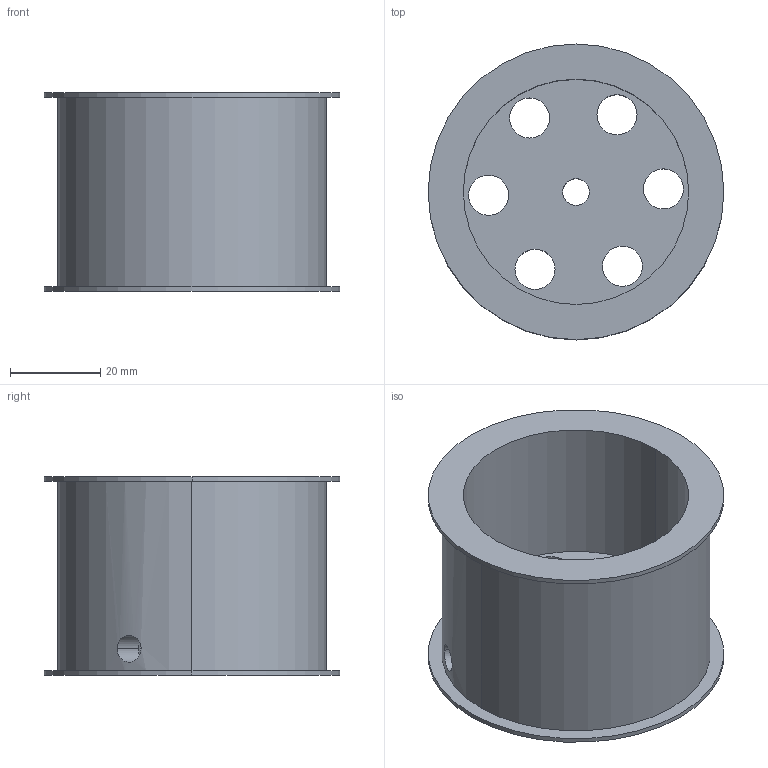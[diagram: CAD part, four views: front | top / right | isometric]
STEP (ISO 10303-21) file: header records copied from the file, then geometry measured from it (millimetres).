
FILE_DESCRIPTION (( 'STEP AP203' ), '1' );
FILE_NAME ('jsumo wheel rim.STEP', '2025-10-13T11:03:18', ( '' ), ( '' ), 'SwSTEP 2.0', 'SolidWorks 2023', '' );
FILE_SCHEMA (( 'CONFIG_CONTROL_DESIGN' ));
Length unit declared in the file: millimetre
Products named in the file (1): jsumo wheel rim
Bounding box: 65.6 x 65.6 x 44 mm (x, y, z)
Volume: 54112.5 mm3; surface area: 23070.1 mm2
Topology: 1 solids, 1 shells, 33 faces, 84 edges, 56 vertices
Faces by surface type: cylinder 26, plane 7
Entity records: 1251 total; most frequent: CARTESIAN_POINT 300, DIRECTION 196, ORIENTED_EDGE 168, AXIS2_PLACEMENT_3D 84, EDGE_CURVE 84, VERTEX_POINT 56, EDGE_LOOP 52, CIRCLE 50
